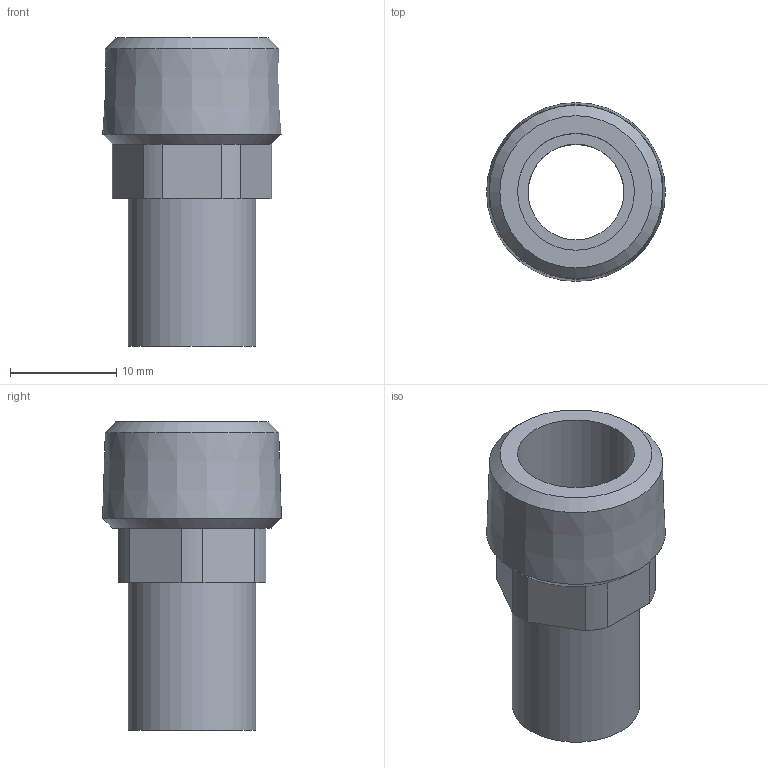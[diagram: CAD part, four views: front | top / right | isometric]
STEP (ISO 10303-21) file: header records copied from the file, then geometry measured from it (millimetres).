
FILE_DESCRIPTION(/* description */ (''),/* implementation_level */ '2;1');
FILE_NAME(/* name */ '\\LG50001\SANHA_Legnica\Engineering\Public\RYSUNKI\SANHA POLSKA\4280G\inventor\14280g_12-38(1).stp',/* time_stamp */ '2017-01-18T11:11:15+01:00',/* author */ ('gomulka'),/* organization */ (''),/* preprocessor_version */ 'ST-DEVELOPER v15.6',/* originating_system */ 'Autodesk Inventor 2015',/* authorisation */ '');
FILE_SCHEMA (('AUTOMOTIVE_DESIGN { 1 0 10303 214 3 1 1 }'));
Length unit declared in the file: millimetre
Products named in the file (1): 14280g_12-38(1)
Bounding box: 16.83 x 16.83 x 29 mm (x, y, z)
Volume: 2365.2 mm3; surface area: 2408 mm2
Topology: 1 solids, 1 shells, 28 faces, 58 edges, 34 vertices
Faces by surface type: plane 16, cylinder 9, cone 3
Full cylindrical faces by diameter (mm): 9 x1, 11 x1, 12 x1
Entity records: 726 total; most frequent: DIRECTION 136, CARTESIAN_POINT 113, ORIENTED_EDGE 102, AXIS2_PLACEMENT_3D 56, EDGE_CURVE 51, EDGE_LOOP 38, VERTEX_POINT 33, FACE_OUTER_BOUND 28
